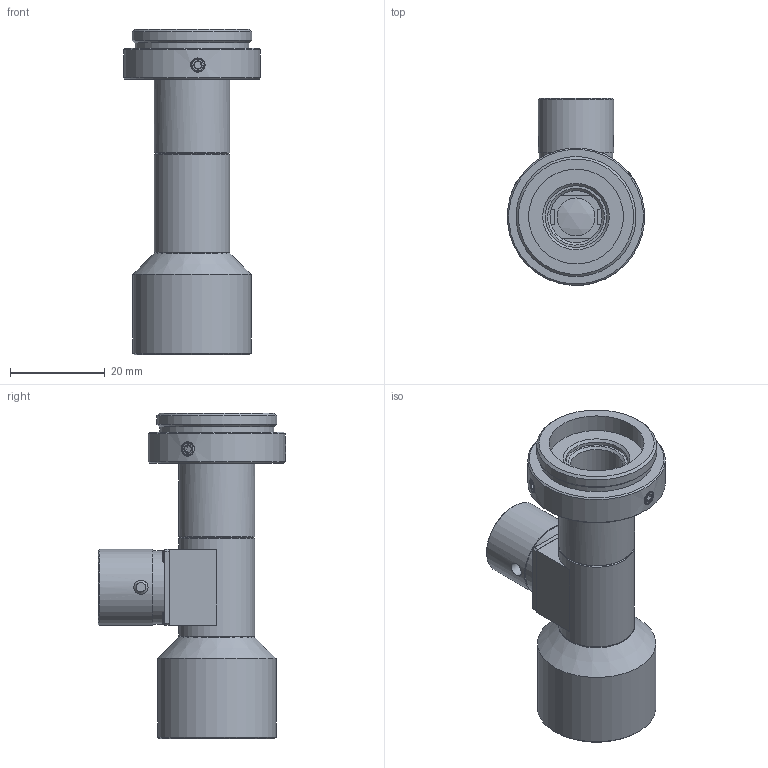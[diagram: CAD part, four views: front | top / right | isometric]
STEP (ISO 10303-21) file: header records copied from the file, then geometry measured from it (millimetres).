
FILE_DESCRIPTION(('STEP AP214'),'1');
FILE_NAME('RTK-1.5F-M65.stp','2026-07-31T06:39:52',(' '),(' '),'Spatial InterOp 3D',' ',' ');
FILE_SCHEMA(('AUTOMOTIVE_DESIGN { 1 0 10303 214 1 1 1 1 }'));
Length unit declared in the file: metre
Products named in the file (2): RTK-1.5F-M65; Component1
Assembly tree (1 placements, depth 2):
  RTK-1.5F-M65
    Component1
Bounding box: 28.89 x 39.55 x 68.57 mm (x, y, z)
Volume: 15889.2 mm3; surface area: 12445.8 mm2
Topology: 1 solids, 13 shells, 350 faces, 834 edges, 546 vertices
Faces by surface type: plane 169, cone 90, cylinder 74, torus 8, sphere 6, bspline 3
Full cylindrical faces by diameter (mm): 1.7 x8, 1.8 x4, 2.5 x3, 3 x3, 6.5 x1, 8 x2, 9 x1, 10 x1, 11 x1, 12.7 x1, 13 x2, 13.4 x1, 13.7 x1, 14 x2, 14.2 x3, 15.5 x1, 16 x7, 17.5 x2, 18 x1, 18.5 x1, 20 x1, 21 x2, 21.8 x1, 24.12 x1, 25 x1, 25.32 x1, 29 x1
Entity records: 12700 total; most frequent: CARTESIAN_POINT 2434, DIRECTION 1588, ORIENTED_EDGE 1316, AXIS2_PLACEMENT_3D 668, EDGE_CURVE 658, EDGE_LOOP 522, VERTEX_POINT 493, FACE_OUTER_BOUND 415
